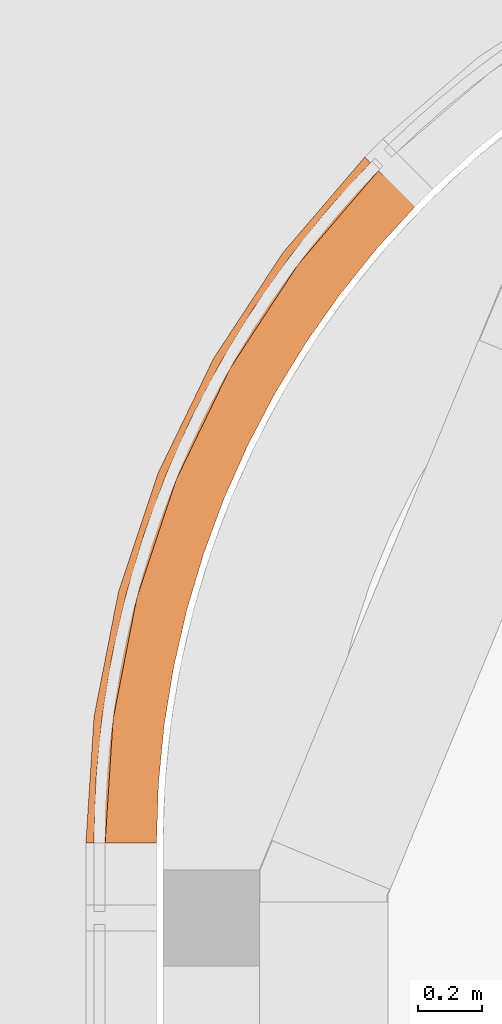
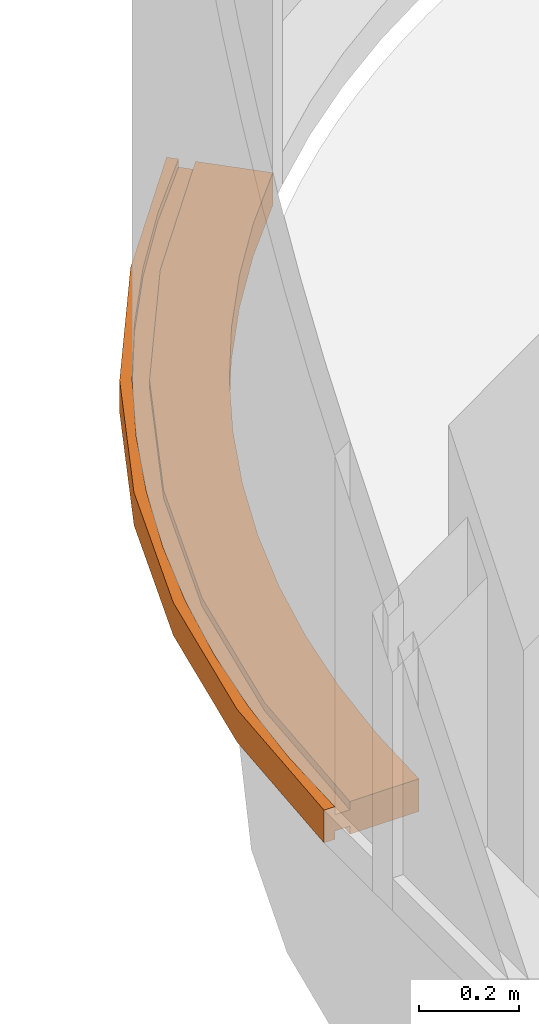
# One storey, part 293 of 302: 1 proxy.
"""IFC2X3 building model written with IfcOpenShell, lengths in metres."""

from ifc_helpers import new_model, entity, si_unit, converted_unit, derived_unit, direction, frame, origin, place, context, subcontext, project, spatial, faceted_brep, source, transform, mapped, material, type_object, type_shapes, element, save


model = new_model("IFC2X3")

# Units and contexts
model_context = context("Model", 3, precision=1e-05, world=origin(), true_north=direction((6.12303176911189e-17, 1.0)))
body_context = subcontext(model_context, "Body", "Model", "MODEL_VIEW")
ifc_project = project(units=[si_unit("LENGTHUNIT", "METRE"), si_unit("AREAUNIT", "SQUARE_METRE"), si_unit("VOLUMEUNIT", "CUBIC_METRE"), converted_unit("PLANEANGLEUNIT", "DEGREE", entity("IfcRatioMeasure", 0.0174532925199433), si_unit("PLANEANGLEUNIT", "RADIAN"), dimensions=[0, 0, 0, 0, 0, 0, 0]), si_unit("MASSUNIT", "GRAM", prefix="KILO"), derived_unit("MASSDENSITYUNIT", [(si_unit("MASSUNIT", "GRAM", prefix="KILO"), 1), (si_unit("LENGTHUNIT", "METRE"), -3)]), derived_unit("MOMENTOFINERTIAUNIT", [(si_unit("LENGTHUNIT", "METRE"), 4)]), si_unit("TIMEUNIT", "SECOND"), si_unit("FREQUENCYUNIT", "HERTZ"), si_unit("THERMODYNAMICTEMPERATUREUNIT", "DEGREE_CELSIUS"), derived_unit("THERMALTRANSMITTANCEUNIT", [(si_unit("MASSUNIT", "GRAM", prefix="KILO"), 1), (si_unit("THERMODYNAMICTEMPERATUREUNIT", "KELVIN"), -1), (si_unit("TIMEUNIT", "SECOND"), -3)]), derived_unit("VOLUMETRICFLOWRATEUNIT", [(si_unit("LENGTHUNIT", "METRE"), 3), (si_unit("TIMEUNIT", "SECOND"), -1)]), si_unit("ELECTRICCURRENTUNIT", "AMPERE"), si_unit("ELECTRICVOLTAGEUNIT", "VOLT"), si_unit("POWERUNIT", "WATT"), si_unit("FORCEUNIT", "NEWTON", prefix="KILO"), si_unit("ILLUMINANCEUNIT", "LUX"), si_unit("LUMINOUSFLUXUNIT", "LUMEN"), si_unit("LUMINOUSINTENSITYUNIT", "CANDELA"), derived_unit("USERDEFINED", [(si_unit("MASSUNIT", "GRAM", prefix="KILO"), -1), (si_unit("LENGTHUNIT", "METRE"), -2), (si_unit("TIMEUNIT", "SECOND"), 3), (si_unit("LUMINOUSFLUXUNIT", "LUMEN"), 1)]), derived_unit("LINEARVELOCITYUNIT", [(si_unit("LENGTHUNIT", "METRE"), 1), (si_unit("TIMEUNIT", "SECOND"), -1)]), si_unit("PRESSUREUNIT", "PASCAL"), derived_unit("USERDEFINED", [(si_unit("LENGTHUNIT", "METRE"), -2), (si_unit("MASSUNIT", "GRAM", prefix="KILO"), 1), (si_unit("TIMEUNIT", "SECOND"), -2)]), derived_unit("LINEARFORCEUNIT", [(si_unit("MASSUNIT", "GRAM", prefix="KILO"), 1), (si_unit("LENGTHUNIT", "METRE"), 1), (si_unit("TIMEUNIT", "SECOND"), -2), (si_unit("LENGTHUNIT", "METRE"), -1)]), derived_unit("PLANARFORCEUNIT", [(si_unit("MASSUNIT", "GRAM", prefix="KILO"), 1), (si_unit("LENGTHUNIT", "METRE"), 1), (si_unit("TIMEUNIT", "SECOND"), -2), (si_unit("LENGTHUNIT", "METRE"), -2)])], contexts=[model_context])

# Site, building, storey
site_placement = place(None, origin())
site = spatial("IfcSite", under=ifc_project, at=site_placement, Name="Default", CompositionType="ELEMENT")
building_placement = place(site_placement, origin())
building = spatial("IfcBuilding", under=site, at=building_placement, CompositionType="ELEMENT")
storey_placement = place(building_placement, frame((0.0, 0.0, -1.3)))
storey = spatial("IfcBuildingStorey", under=building, at=storey_placement, Name="00_EG", CompositionType="ELEMENT", Elevation=-1.3)

# Proxy
ifc_material = material(Name="Prepainted_Steel-ArcelorMittal_Construction_HAIRULTRA-35-CORAL-4309-[RAL_3000]")
building_element_proxy_type = type_object("IfcBuildingElementProxyType", Name="Fassadenrahmen Typ4:Fassadenrahmen Typ1", PredefinedType="NOTDEFINED", material=ifc_material)
shared_shape = source(origin(), body_context, "Body", "Brep", [
    faceted_brep([(0.887635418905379, 2.11940630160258, 0.0800000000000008), (0.887635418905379, 2.11940630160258, 0.060000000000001), (0.912705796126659, 2.09498343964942, 0.0600000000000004), (0.912705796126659, 2.09498343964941, 0.0800000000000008), (1.02731323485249, 1.98333607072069, 0.0800000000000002), (1.02731323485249, 1.98333607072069, 0.0), (0.912705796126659, 2.09498343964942, 0.0), (0.912705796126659, 2.09498343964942, 0.0200000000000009), (0.887635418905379, 2.11940630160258, 0.0200000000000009), (0.887635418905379, 2.11940630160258, 0.0), (0.869728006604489, 2.13685120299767, 0.0), (0.869728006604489, 2.13685120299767, 0.0800000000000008), (0.00159527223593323, 0.00159527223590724, 0.0800000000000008), (0.00159527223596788, 0.00159527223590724, 0.0), (0.0265952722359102, 0.00159527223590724, 0.0), (0.0265952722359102, 0.00159527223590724, 0.0200000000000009), (0.0615952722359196, 0.00159527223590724, 0.0200000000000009), (0.0615952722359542, 0.00159527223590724, 0.0), (0.221595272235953, 0.00159527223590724, 0.0), (0.221595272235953, 0.00159527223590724, 0.0800000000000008), (0.0615952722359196, 0.00159527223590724, 0.0800000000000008), (0.0615952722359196, 0.00159527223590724, 0.060000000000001), (0.0265952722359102, 0.00159527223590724, 0.0600000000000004), (0.0265952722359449, 0.00159527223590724, 0.0800000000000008), (0.160459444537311, 0.765408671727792, 0.0), (0.190971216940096, 0.856929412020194, 0.0), (0.221482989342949, 0.948450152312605, 0.0), (0.251994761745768, 1.03997089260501, 0.0), (0.282506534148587, 1.13149163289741, 0.0), (0.324513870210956, 1.21833861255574, 0.0), (0.36652120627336, 1.30518559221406, 0.0), (0.408528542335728, 1.39203257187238, 0.0), (0.450535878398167, 1.4788795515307, 0.0), (0.503343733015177, 1.5596158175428, 0.0), (0.556151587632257, 1.64035208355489, 0.0), (0.608959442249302, 1.72108834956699, 0.0), (0.661767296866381, 1.80182461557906, 0.0), (0.724501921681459, 1.87511432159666, 0.0), (0.787236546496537, 1.94840402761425, 0.0), (0.83503093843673, 2.00423981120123, 0.0), (0.904068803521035, 1.84839778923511, 0.0), (0.789758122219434, 1.70581238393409, 0.0), (0.68485452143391, 1.55617026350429, 0.0), (0.589792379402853, 1.40009105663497, 0.0), (0.504965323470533, 1.23822104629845, 0.0), (0.430724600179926, 1.07123049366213, 0.0), (0.367377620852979, 0.89981086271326, 0.0), (0.315186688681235, 0.724671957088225, 0.0), (0.274367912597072, 0.546538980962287, 0.0), (0.245090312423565, 0.366149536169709, 0.0), (0.227475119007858, 0.184250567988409, 0.0), (0.0692775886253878, 0.120795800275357, 0.0), (0.0740046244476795, 0.194141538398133, 0.0), (0.080209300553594, 0.290414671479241, 0.0), (0.086413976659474, 0.386687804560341, 0.0), (0.104925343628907, 0.481368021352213, 0.0), (0.123436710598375, 0.576048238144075, 0.0), (0.141948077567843, 0.670728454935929, 0.0), (0.102436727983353, 0.780684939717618, 0.0), (0.226924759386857, 1.15408956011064, 0.0), (0.398314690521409, 1.50842523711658, 0.0), (0.613770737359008, 1.83782920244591, 0.0), (0.821782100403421, 2.04730459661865, 0.0), (0.755928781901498, 1.97520289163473, 0.0), (0.694849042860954, 1.89901509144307, 0.0), (0.633769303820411, 1.82282729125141, 0.0), (0.577716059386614, 1.74286886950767, 0.0), (0.521662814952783, 1.66291044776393, 0.0), (0.470868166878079, 1.57951249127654, 0.0), (0.420073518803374, 1.49611453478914, 0.0), (0.37474779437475, 1.40962237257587, 0.0), (0.329422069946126, 1.32313021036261, 0.0), (0.289752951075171, 1.23390198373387, 0.0), (0.250083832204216, 1.14467375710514, 0.0), (0.216235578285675, 1.05307893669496, 0.0), (0.182387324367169, 0.961484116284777, 0.0), (0.154500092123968, 0.867901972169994, 0.0), (0.126612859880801, 0.774319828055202, 0.0), (0.104802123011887, 0.679137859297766, 0.0), (0.0829913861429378, 0.583955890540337, 0.0), (0.0673474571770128, 0.48756822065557, 0.0), (0.0517035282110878, 0.391180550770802, 0.0), (0.042291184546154, 0.293986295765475, 0.0), (0.0328788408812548, 0.196792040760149, 0.0), (0.0304627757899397, 0.121737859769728, 0.0), (0.0269103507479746, 0.394389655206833, 0.0), (0.450535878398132, 1.47887955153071, 0.0200000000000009), (0.503343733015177, 1.5596158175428, 0.0200000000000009), (0.556151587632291, 1.64035208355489, 0.0200000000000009), (0.608959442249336, 1.72108834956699, 0.0200000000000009), (0.661767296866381, 1.80182461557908, 0.0200000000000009), (0.661767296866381, 1.80182461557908, 0.0800000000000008), (0.661767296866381, 1.80182461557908, 0.060000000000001), (0.608959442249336, 1.72108834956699, 0.0600000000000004), (0.556151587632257, 1.64035208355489, 0.0600000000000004), (0.503343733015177, 1.5596158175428, 0.0600000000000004), (0.450535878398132, 1.47887955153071, 0.060000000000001), (0.450535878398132, 1.47887955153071, 0.0800000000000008), (0.503343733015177, 1.55961581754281, 0.0800000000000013), (0.556151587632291, 1.64035208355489, 0.0800000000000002), (0.608959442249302, 1.72108834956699, 0.0800000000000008), (0.724501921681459, 1.87511432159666, 0.0200000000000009), (0.787236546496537, 1.94840402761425, 0.0200000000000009), (0.849971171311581, 2.02169373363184, 0.0200000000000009), (0.709561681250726, 1.85766039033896, 0.0600000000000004), (0.724501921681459, 1.87511432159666, 0.0800000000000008), (0.787236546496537, 1.94840402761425, 0.0800000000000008), (0.835030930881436, 2.00423980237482, 0.0800000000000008), (0.835030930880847, 2.00423980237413, 0.0600000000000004), (0.75735606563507, 1.91349616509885, 0.0600000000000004), (0.408528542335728, 1.39203257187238, 0.0200000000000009), (0.282506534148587, 1.13149163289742, 0.0200000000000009), (0.324513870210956, 1.21833861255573, 0.0200000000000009), (0.36652120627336, 1.30518559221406, 0.0200000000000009), (0.408528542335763, 1.39203257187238, 0.0600000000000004), (0.36652120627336, 1.30518559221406, 0.0600000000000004), (0.324513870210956, 1.21833861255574, 0.0600000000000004), (0.282506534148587, 1.13149163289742, 0.060000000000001), (0.282506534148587, 1.13149163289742, 0.0800000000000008), (0.324513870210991, 1.21833861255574, 0.0800000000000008), (0.366521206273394, 1.30518559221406, 0.0800000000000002), (0.408528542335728, 1.39203257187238, 0.0800000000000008), (0.086413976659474, 0.38668780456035, 0.0200000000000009), (0.104925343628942, 0.481368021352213, 0.0200000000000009), (0.123436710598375, 0.576048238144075, 0.0200000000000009), (0.141948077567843, 0.670728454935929, 0.0200000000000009), (0.160459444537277, 0.765408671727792, 0.0200000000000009), (0.123436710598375, 0.576048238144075, 0.0600000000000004), (0.104925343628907, 0.481368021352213, 0.0600000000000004), (0.086413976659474, 0.38668780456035, 0.060000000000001), (0.086413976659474, 0.38668780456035, 0.0800000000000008), (0.104925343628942, 0.481368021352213, 0.0800000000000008), (0.123436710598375, 0.576048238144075, 0.0800000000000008), (0.141948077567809, 0.670728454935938, 0.0800000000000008), (0.160459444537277, 0.765408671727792, 0.0800000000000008), (0.160459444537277, 0.765408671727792, 0.060000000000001), (0.141948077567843, 0.670728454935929, 0.0600000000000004), (0.0740046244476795, 0.194141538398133, 0.0200000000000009), (0.080209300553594, 0.290414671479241, 0.0200000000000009), (0.0677999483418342, 0.0978684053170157, 0.0200000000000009), (0.069277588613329, 0.120795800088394, 0.0800000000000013), (0.0740046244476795, 0.194141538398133, 0.0800000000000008), (0.0802093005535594, 0.290414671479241, 0.0800000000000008), (0.0802093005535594, 0.290414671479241, 0.0600000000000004), (0.0740046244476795, 0.194141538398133, 0.0600000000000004), (0.0677999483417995, 0.0978684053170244, 0.0600000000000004), (0.190971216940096, 0.856929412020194, 0.0200000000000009), (0.221482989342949, 0.948450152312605, 0.0200000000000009), (0.251994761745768, 1.03997089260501, 0.0200000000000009), (0.251994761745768, 1.03997089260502, 0.0800000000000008), (0.251994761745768, 1.03997089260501, 0.0600000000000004), (0.221482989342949, 0.948450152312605, 0.0600000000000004), (0.190971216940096, 0.856929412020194, 0.0600000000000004), (0.190971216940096, 0.856929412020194, 0.0800000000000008), (0.221482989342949, 0.948450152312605, 0.0800000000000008), (0.0297370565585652, 0.0991936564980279, 0.0200000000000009), (0.0328788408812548, 0.196792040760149, 0.0200000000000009), (0.042291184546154, 0.293986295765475, 0.0200000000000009), (0.0517035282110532, 0.391180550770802, 0.0200000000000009), (0.0673474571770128, 0.48756822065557, 0.0200000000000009), (0.0829913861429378, 0.583955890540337, 0.0200000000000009), (0.104802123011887, 0.679137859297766, 0.0200000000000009), (0.126612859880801, 0.774319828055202, 0.0200000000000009), (0.154500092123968, 0.867901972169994, 0.0200000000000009), (0.182387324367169, 0.961484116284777, 0.0200000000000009), (0.216235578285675, 1.05307893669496, 0.0200000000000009), (0.250083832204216, 1.14467375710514, 0.0200000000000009), (0.289752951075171, 1.23390198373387, 0.0200000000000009), (0.329422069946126, 1.32313021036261, 0.0200000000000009), (0.37474779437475, 1.40962237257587, 0.0200000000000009), (0.420073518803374, 1.49611453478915, 0.0200000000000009), (0.470868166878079, 1.57951249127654, 0.0200000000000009), (0.521662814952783, 1.66291044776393, 0.0200000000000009), (0.577716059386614, 1.74286886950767, 0.0200000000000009), (0.633769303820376, 1.82282729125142, 0.0200000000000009), (0.694849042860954, 1.89901509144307, 0.0200000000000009), (0.755928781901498, 1.97520289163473, 0.0200000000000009), (0.821782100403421, 2.04730459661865, 0.0200000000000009), (0.521662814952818, 1.66291044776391, 0.0800000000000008), (0.470868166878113, 1.57951249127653, 0.0800000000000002), (0.420073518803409, 1.49611453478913, 0.0800000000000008), (0.420073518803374, 1.49611453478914, 0.0600000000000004), (0.470868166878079, 1.57951249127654, 0.0600000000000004), (0.521662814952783, 1.66291044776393, 0.0600000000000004), (0.37474779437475, 1.40962237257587, 0.0800000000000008), (0.329422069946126, 1.32313021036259, 0.0800000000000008), (0.329422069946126, 1.32313021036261, 0.0600000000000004), (0.37474779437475, 1.40962237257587, 0.0600000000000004), (0.694849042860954, 1.89901509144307, 0.0800000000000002), (0.633769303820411, 1.82282729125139, 0.0800000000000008), (0.633769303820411, 1.82282729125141, 0.0600000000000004), (0.694849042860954, 1.89901509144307, 0.0600000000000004), (0.755928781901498, 1.97520289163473, 0.0600000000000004), (0.755928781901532, 1.97520289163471, 0.0800000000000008), (0.821782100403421, 2.04730459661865, 0.0800000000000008), (0.821782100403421, 2.04730459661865, 0.0600000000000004), (0.577716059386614, 1.74286886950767, 0.0800000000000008), (0.577716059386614, 1.74286886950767, 0.0600000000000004), (0.289752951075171, 1.23390198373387, 0.0800000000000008), (0.250083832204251, 1.14467375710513, 0.0800000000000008), (0.250083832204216, 1.14467375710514, 0.0600000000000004), (0.289752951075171, 1.23390198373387, 0.0600000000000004), (0.154500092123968, 0.867901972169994, 0.0800000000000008), (0.126612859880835, 0.774319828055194, 0.0800000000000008), (0.126612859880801, 0.774319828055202, 0.0600000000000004), (0.154500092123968, 0.867901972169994, 0.0600000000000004), (0.182387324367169, 0.961484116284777, 0.0600000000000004), (0.182387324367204, 0.961484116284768, 0.0800000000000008), (0.042291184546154, 0.293986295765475, 0.0800000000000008), (0.0328788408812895, 0.196792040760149, 0.0800000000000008), (0.0328788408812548, 0.196792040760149, 0.0600000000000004), (0.042291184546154, 0.293986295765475, 0.0600000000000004), (0.0517035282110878, 0.391180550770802, 0.0600000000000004), (0.0517035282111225, 0.391180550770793, 0.0800000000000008), (0.216235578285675, 1.05307893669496, 0.0600000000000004), (0.216235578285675, 1.05307893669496, 0.0800000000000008), (0.104802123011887, 0.679137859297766, 0.0800000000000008), (0.0829913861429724, 0.583955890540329, 0.0800000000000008), (0.0829913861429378, 0.583955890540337, 0.0600000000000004), (0.104802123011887, 0.679137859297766, 0.0600000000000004), (0.0297370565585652, 0.0991936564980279, 0.0600000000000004), (0.0304627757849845, 0.121737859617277, 0.0800000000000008), (0.0673474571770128, 0.48756822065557, 0.0800000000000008), (0.0673474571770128, 0.48756822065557, 0.0600000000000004), (0.398314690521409, 1.50842523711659, 0.0800000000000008), (0.613770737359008, 1.83782920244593, 0.0800000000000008), (0.226924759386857, 1.15408956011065, 0.0800000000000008), (0.02691035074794, 0.394389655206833, 0.0800000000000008), (0.102436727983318, 0.780684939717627, 0.0800000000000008), (0.274367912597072, 0.546538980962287, 0.0800000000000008), (0.315186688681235, 0.724671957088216, 0.0800000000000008), (0.367377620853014, 0.899810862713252, 0.0800000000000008), (0.430724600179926, 1.07123049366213, 0.0800000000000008), (0.504965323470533, 1.23822104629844, 0.0800000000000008), (0.589792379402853, 1.40009105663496, 0.0800000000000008), (0.684854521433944, 1.55617026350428, 0.0800000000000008), (0.789758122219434, 1.70581238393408, 0.0800000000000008), (0.904068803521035, 1.84839778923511, 0.0800000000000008), (0.227475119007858, 0.184250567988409, 0.0800000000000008), (0.245090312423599, 0.366149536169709, 0.0800000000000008)], [[[0, 1, 2, 3, 4, 5, 6, 7, 8, 9, 10, 11]], [[12, 13, 14, 15, 16, 17, 18, 19, 20, 21, 22, 23]], [[24, 25, 26, 27, 28, 29, 30, 31, 32, 33, 34, 35, 36, 37, 38, 39, 6, 5, 40, 41, 42, 43, 44, 45, 46, 47, 48, 49, 50, 18, 17, 51, 52, 53, 54, 55, 56, 57]], [[58, 59, 60, 61, 10, 9, 62, 63, 64, 65, 66, 67, 68, 69, 70, 71, 72, 73, 74, 75, 76, 77, 78, 79, 80, 81, 82, 83, 84, 14, 13, 85]], [[32, 86, 87, 88, 89, 90, 36, 35, 34, 33]], [[91, 92, 93, 94, 95, 96, 97, 98, 99, 100]], [[7, 6, 39, 38, 37, 36, 90, 101, 102, 103]], [[104, 92, 91, 105, 106, 107, 3, 2, 108, 109]], [[110, 86, 32, 31, 30, 29, 28, 111, 112, 113]], [[97, 96, 114, 115, 116, 117, 118, 119, 120, 121]], [[56, 55, 54, 122, 123, 124, 125, 126, 24, 57]], [[127, 128, 129, 130, 131, 132, 133, 134, 135, 136]], [[137, 138, 122, 54, 53, 52, 51, 17, 16, 139]], [[20, 140, 141, 142, 130, 129, 143, 144, 145, 21]], [[25, 24, 126, 146, 147, 148, 111, 28, 27, 26]], [[149, 118, 117, 150, 151, 152, 135, 134, 153, 154]], [[126, 125, 124, 123, 122, 138, 137, 139, 16, 15, 155, 156, 157, 158, 159, 160, 161, 162, 163, 164, 165, 166, 167, 168, 169, 170, 171, 172, 173, 174, 175, 176, 177, 8, 7, 103, 102, 101, 90, 89, 88, 87, 86, 110, 113, 112, 111, 148, 147, 146]], [[68, 67, 172, 171, 170, 69]], [[178, 179, 180, 181, 182, 183]], [[70, 69, 170, 169, 168, 71]], [[180, 184, 185, 186, 187, 181]], [[174, 65, 64, 63, 176, 175]], [[188, 189, 190, 191, 192, 193]], [[63, 62, 9, 8, 177, 176]], [[1, 0, 194, 193, 192, 195]], [[66, 65, 174, 173, 172, 67]], [[189, 196, 178, 183, 197, 190]], [[167, 166, 73, 72, 71, 168]], [[185, 198, 199, 200, 201, 186]], [[76, 75, 164, 163, 162, 77]], [[202, 203, 204, 205, 206, 207]], [[156, 83, 82, 81, 158, 157]], [[208, 209, 210, 211, 212, 213]], [[164, 75, 74, 73, 166, 165]], [[214, 200, 199, 215, 207, 206]], [[162, 161, 160, 79, 78, 77]], [[216, 217, 218, 219, 204, 203]], [[155, 15, 14, 84, 83, 156]], [[220, 210, 209, 221, 23, 22]], [[160, 159, 158, 81, 80, 79]], [[217, 222, 213, 212, 223, 218]], [[61, 60, 224, 225]], [[10, 61, 225, 11]], [[60, 59, 226, 224]], [[227, 228, 58, 85]], [[12, 227, 85, 13]], [[59, 58, 228, 226]], [[228, 227, 12, 23, 221, 209, 208, 213, 222, 217, 216, 203, 202, 207, 215, 199, 198, 185, 184, 180, 179, 178, 196, 189, 188, 193, 194, 0, 11, 225, 224, 226]], [[229, 230, 231, 232, 233, 234, 235, 236, 237, 4, 3, 107, 106, 105, 91, 100, 99, 98, 97, 121, 120, 119, 118, 149, 154, 153, 134, 133, 132, 131, 130, 142, 141, 140, 20, 19, 238, 239]], [[135, 152, 151, 150, 117, 116, 115, 114, 96, 95, 94, 93, 92, 104, 109, 108, 2, 1, 195, 192, 191, 190, 197, 183, 182, 181, 187, 186, 201, 200, 214, 206, 205, 204, 219, 218, 223, 212, 211, 210, 220, 22, 21, 145, 144, 143, 129, 128, 127, 136]], [[236, 41, 40, 237]], [[4, 237, 40, 5]], [[43, 42, 235, 234]], [[44, 43, 234, 233]], [[236, 235, 42, 41]], [[233, 232, 45, 44]], [[47, 46, 231, 230]], [[47, 230, 229, 48]], [[50, 49, 239, 238]], [[239, 49, 48, 229]], [[18, 50, 238, 19]], [[45, 232, 231, 46]]]),
])
type_shapes(building_element_proxy_type, [shared_shape])
proxy_placement = place(storey_placement, frame((-266.901706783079, 42.736493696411, 1.29999999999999)))
element("IfcBuildingElementProxy", 1, at=proxy_placement, inside=storey, type_object=building_element_proxy_type, material=ifc_material, Name="Fassadenrahmen Typ4:Fassadenrahmen Typ1", ObjectType="Fassadenrahmen Typ4:Fassadenrahmen Typ1", context=body_context, shape_type="MappedRepresentation", body=[
    mapped(shared_shape, transform((0.0, 0.0, 0.0), scale=1.0)),
])

save(model, "model.ifc")
